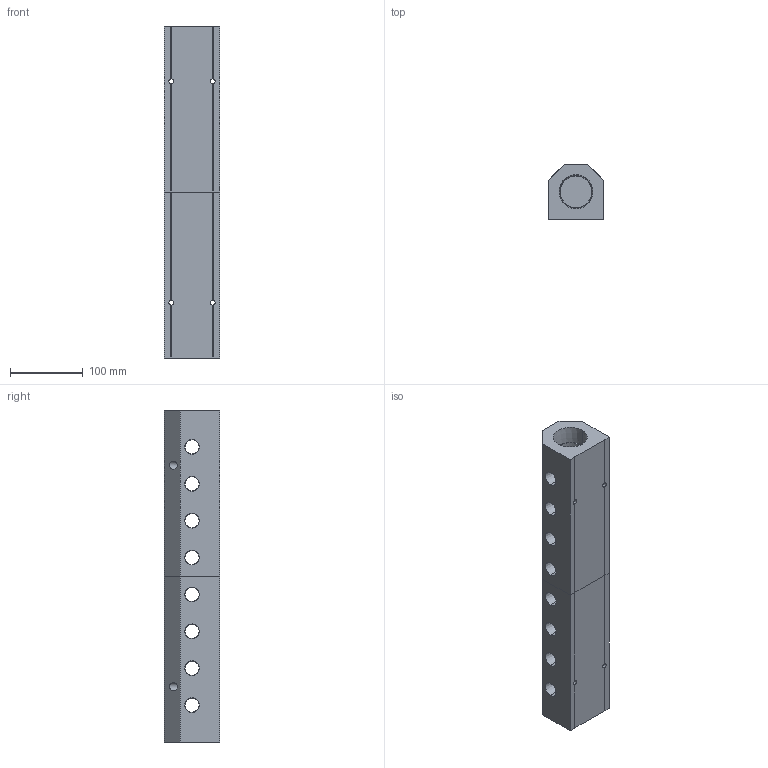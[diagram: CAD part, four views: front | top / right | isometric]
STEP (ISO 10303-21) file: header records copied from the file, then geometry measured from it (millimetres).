
FILE_DESCRIPTION (( 'STEP AP214' ), '1' );
FILE_NAME ('ALM8ACE-N8N24-457RB.step', '2022-02-07T09:39:49', ( '' ), ( '' ), 'SwSTEP 2.0', 'SolidWorks 2020', '' );
FILE_SCHEMA (( 'AUTOMOTIVE_DESIGN' ));
Length unit declared in the file: millimetre
Products named in the file (1): ALM8ACE-N8N24-457RB
Bounding box: 76.2 x 76.2 x 457 mm (x, y, z)
Volume: 1582364.9 mm3; surface area: 227831.2 mm2
Topology: 2 solids, 2 shells, 396 faces, 1064 edges, 696 vertices
Faces by surface type: plane 250, bspline 74, cone 52, cylinder 20
Entity records: 22708 total; most frequent: CARTESIAN_POINT 9487, ORIENTED_EDGE 2128, DIRECTION 1586, EDGE_CURVE 1064, VECTOR 764, LINE 764, VERTEX_POINT 696, EDGE_LOOP 476
